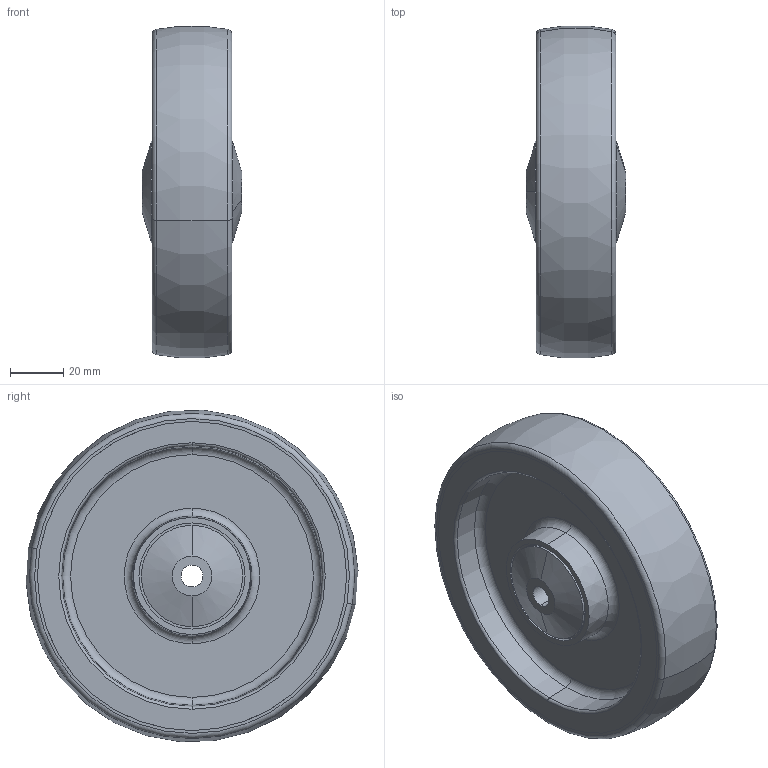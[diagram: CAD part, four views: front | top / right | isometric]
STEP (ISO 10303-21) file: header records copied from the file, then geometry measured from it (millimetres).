
FILE_DESCRIPTION (( 'STEP AP203' ), '1' );
FILE_NAME ('300051_STEP.STEP', '2011-12-29T12:30:56', ( '' ), ( '' ), 'SwSTEP 2.0', 'SolidWorks 2011', '' );
FILE_SCHEMA (( 'CONFIG_CONTROL_DESIGN' ));
Length unit declared in the file: millimetre
Products named in the file (1): 300051_STEP
Bounding box: 37.4 x 124.59 x 124.37 mm (x, y, z)
Surface area: 68311.7 mm2 (no closed solid volume)
Topology: 0 solids, 8 shells, 64 faces, 142 edges, 92 vertices
Faces by surface type: cylinder 20, torus 18, plane 14, cone 12
Entity records: 1892 total; most frequent: DIRECTION 382, CARTESIAN_POINT 299, ORIENTED_EDGE 256, AXIS2_PLACEMENT_3D 175, EDGE_CURVE 142, CIRCLE 110, VERTEX_POINT 92, EDGE_LOOP 78
